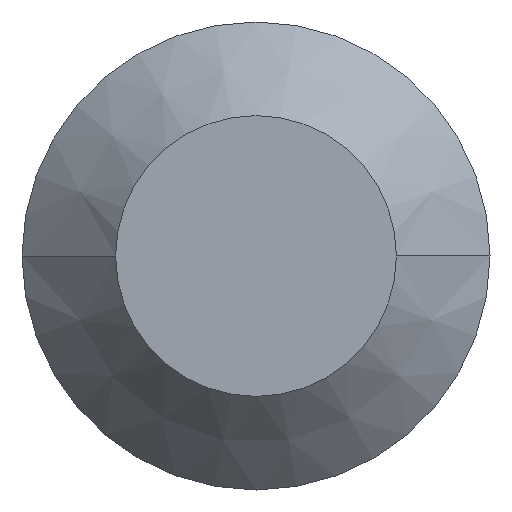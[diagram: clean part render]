
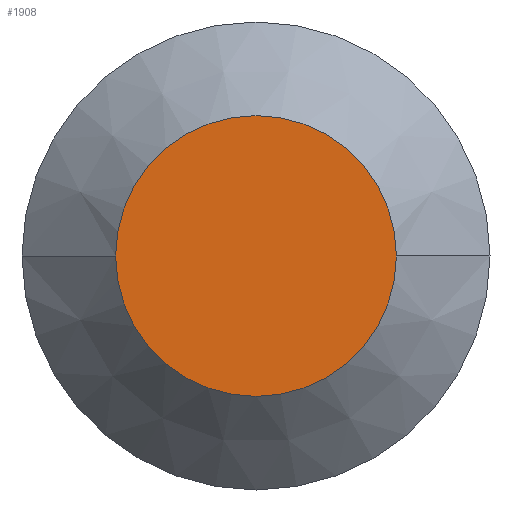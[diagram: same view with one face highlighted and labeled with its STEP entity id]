
A CAD part, front view. The second image highlights one B-rep face of the part: STEP entity #1908.
In plain terms, the highlighted planar face has unit normal (0, -1, 0).
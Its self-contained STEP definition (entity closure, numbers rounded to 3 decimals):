
#137 = EDGE_CURVE ( 'NONE', #1109, #1094, #291, .T. ) ;
#160 = AXIS2_PLACEMENT_3D ( 'NONE', #646, #652, #653 ) ;
#291 = CIRCLE ( 'NONE', #327, 4.5 ) ;
#327 = AXIS2_PLACEMENT_3D ( 'NONE', #1924, #1925, #1926 ) ;
#646 = CARTESIAN_POINT ( 'NONE',  ( -4.5, 0., 0. ) ) ;
#648 = FACE_OUTER_BOUND ( 'NONE', #1134, .T. ) ;
#649 = PLANE ( 'NONE',  #160 ) ;
#652 = DIRECTION ( 'NONE',  ( 0., -1., 0. ) ) ;
#653 = DIRECTION ( 'NONE',  ( 1., 0., 0. ) ) ;
#827 = EDGE_CURVE ( 'NONE', #1094, #1109, #1701, .T. ) ;
#1094 = VERTEX_POINT ( 'NONE', #1744 ) ;
#1109 = VERTEX_POINT ( 'NONE', #1758 ) ;
#1134 = EDGE_LOOP ( 'NONE', ( #1379, #1376 ) ) ;
#1376 = ORIENTED_EDGE ( 'NONE', *, *, #137, .F. ) ;
#1379 = ORIENTED_EDGE ( 'NONE', *, *, #827, .F. ) ;
#1697 = AXIS2_PLACEMENT_3D ( 'NONE', #2019, #2020, #2021 ) ;
#1701 = CIRCLE ( 'NONE', #1697, 4.5 ) ;
#1744 = CARTESIAN_POINT ( 'NONE',  ( -4.5, 0., 0. ) ) ;
#1758 = CARTESIAN_POINT ( 'NONE',  ( 4.5, 0., 0. ) ) ;
#1908 = ADVANCED_FACE ( 'NONE', ( #648 ), #649, .T. ) ;
#1924 = CARTESIAN_POINT ( 'NONE',  ( 0., 0., 0. ) ) ;
#1925 = DIRECTION ( 'NONE',  ( 0., 1., 0. ) ) ;
#1926 = DIRECTION ( 'NONE',  ( -1., 0., 0. ) ) ;
#2019 = CARTESIAN_POINT ( 'NONE',  ( 0., 0., 0. ) ) ;
#2020 = DIRECTION ( 'NONE',  ( 0., 1., 0. ) ) ;
#2021 = DIRECTION ( 'NONE',  ( -1., 0., 0. ) ) ;
